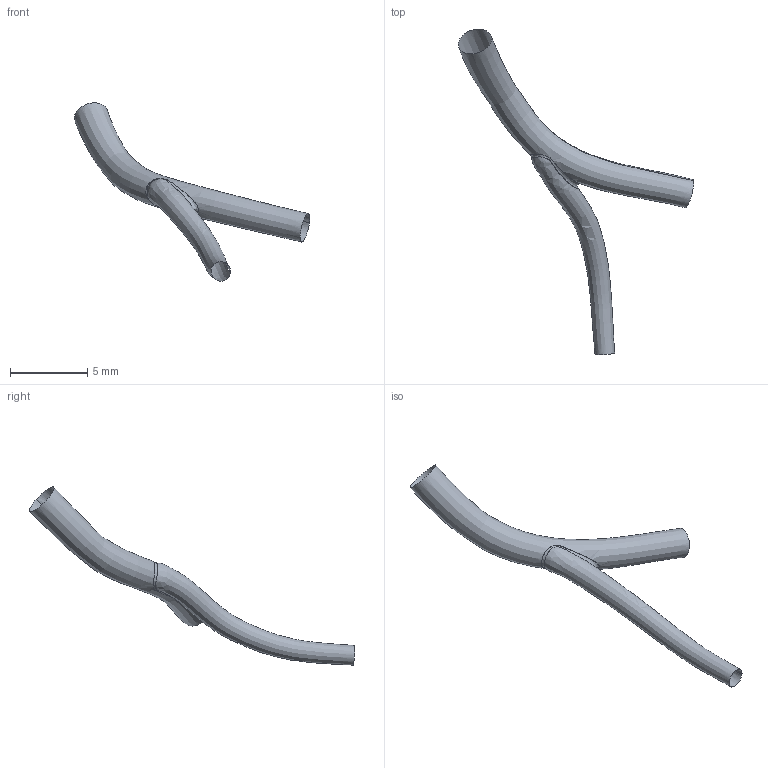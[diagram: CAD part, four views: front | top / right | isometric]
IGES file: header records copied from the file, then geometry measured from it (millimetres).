
Global section: file name: C:\Documents and Settings\Administrator\Desktop\FDA-Pig\Domestic LCA\Pig_000004\diag.es.igs; native system: Rhinoceros ( May 19 2006 ); preprocessor: Trout Lake IGES 012 May 19 2006; date: 111205.183059; units: centimetre
Bounding box: 15.27 x 21.11 x 11.56 mm (x, y, z)
Surface area: 189.2 mm2 (no closed solid volume)
Topology: 0 solids, 0 shells, 3 faces, 54 edges, 51 vertices
Faces by surface type: bspline 3
